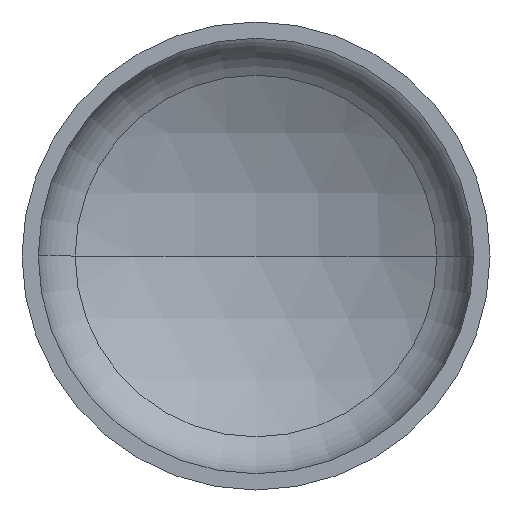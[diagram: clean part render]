
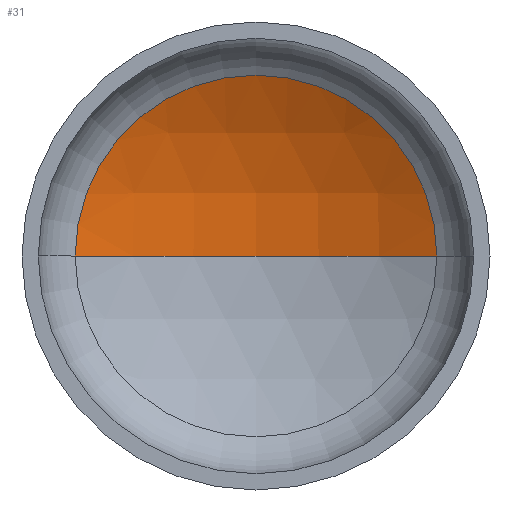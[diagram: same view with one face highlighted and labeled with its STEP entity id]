
A CAD part, front view. The second image highlights one B-rep face of the part: STEP entity #31.
In plain terms, the highlighted spherical face has radius 1520 mm.
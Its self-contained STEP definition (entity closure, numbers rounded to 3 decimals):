
#2 = VERTEX_POINT ( 'NONE', #129 ) ;
#9 = ORIENTED_EDGE ( 'NONE', *, *, #224, .T. ) ;
#17 = DIRECTION ( 'NONE',  ( 0., 0., 1. ) ) ;
#30 = CARTESIAN_POINT ( 'NONE',  ( 0., 373.942, 0. ) ) ;
#31 = ADVANCED_FACE ( 'NONE', ( #380 ), #327, .F. ) ;
#40 = EDGE_LOOP ( 'NONE', ( #276, #9, #97 ) ) ;
#73 = DIRECTION ( 'NONE',  ( -1., 0., 0. ) ) ;
#76 = DIRECTION ( 'NONE',  ( 0., 0., -1. ) ) ;
#77 = VERTEX_POINT ( 'NONE', #158 ) ;
#84 = CARTESIAN_POINT ( 'NONE',  ( 0., -957.063, 0. ) ) ;
#97 = ORIENTED_EDGE ( 'NONE', *, *, #220, .T. ) ;
#120 = CARTESIAN_POINT ( 'NONE',  ( 0., -957.063, 0. ) ) ;
#125 = AXIS2_PLACEMENT_3D ( 'NONE', #209, #17, #271 ) ;
#129 = CARTESIAN_POINT ( 'NONE',  ( 734.049, 373.942, 0. ) ) ;
#132 = AXIS2_PLACEMENT_3D ( 'NONE', #120, #320, #148 ) ;
#138 = AXIS2_PLACEMENT_3D ( 'NONE', #30, #214, #381 ) ;
#148 = DIRECTION ( 'NONE',  ( -1., 0., 0. ) ) ;
#150 = CIRCLE ( 'NONE', #125, 1520. ) ;
#158 = CARTESIAN_POINT ( 'NONE',  ( 0., 562.937, 0. ) ) ;
#161 = CIRCLE ( 'NONE', #138, 734.049 ) ;
#178 = AXIS2_PLACEMENT_3D ( 'NONE', #84, #76, #73 ) ;
#209 = CARTESIAN_POINT ( 'NONE',  ( 0., -957.063, 0. ) ) ;
#214 = DIRECTION ( 'NONE',  ( 0., -1., 0. ) ) ;
#220 = EDGE_CURVE ( 'NONE', #2, #388, #161, .T. ) ;
#224 = EDGE_CURVE ( 'NONE', #77, #2, #305, .T. ) ;
#232 = EDGE_CURVE ( 'NONE', #77, #388, #150, .T. ) ;
#271 = DIRECTION ( 'NONE',  ( 1., 0., 0. ) ) ;
#276 = ORIENTED_EDGE ( 'NONE', *, *, #232, .F. ) ;
#305 = CIRCLE ( 'NONE', #132, 1520. ) ;
#320 = DIRECTION ( 'NONE',  ( 0., 0., -1. ) ) ;
#327 = SPHERICAL_SURFACE ( 'NONE', #178, 1520. ) ;
#359 = CARTESIAN_POINT ( 'NONE',  ( -734.049, 373.942, 0. ) ) ;
#380 = FACE_OUTER_BOUND ( 'NONE', #40, .T. ) ;
#381 = DIRECTION ( 'NONE',  ( 1., 0., 0. ) ) ;
#388 = VERTEX_POINT ( 'NONE', #359 ) ;
